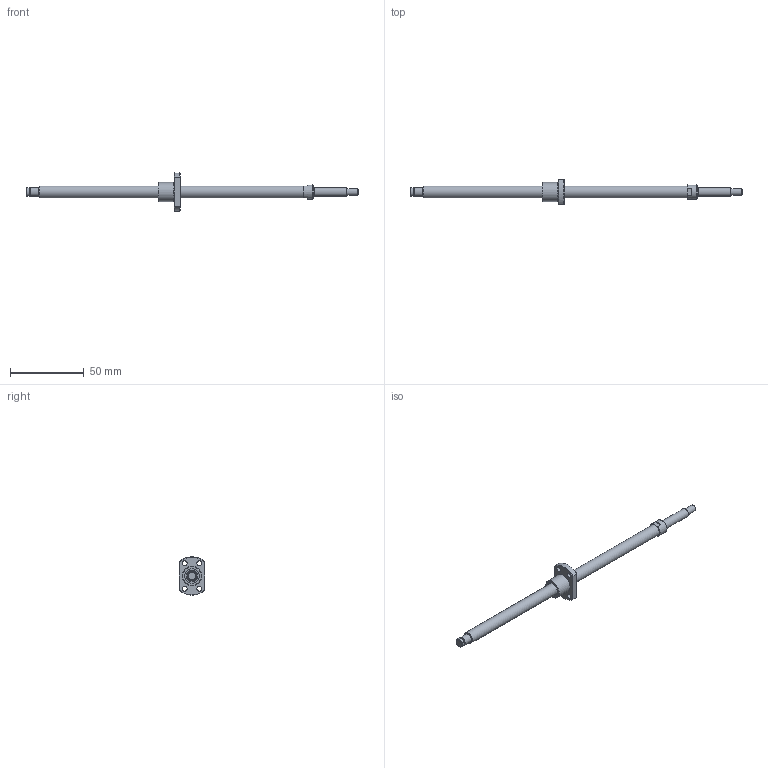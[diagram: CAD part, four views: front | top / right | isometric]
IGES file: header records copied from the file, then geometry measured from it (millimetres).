
Start section: Data from Parasolid IGES Translator 26.0.171, Copyright(c) 2006 Siemens PLM Software. All Rights Reserved.
Global section: file name: BNK0801-3G0+225LC5Y(95.5).igs; native system: By Siemens PLM Incorporated; preprocessor: XPlus GENERIC/IGES 26.0.171; author: Noname; organization: Noname; date: 20240709.082932; units: millimetre
Bounding box: 225 x 17 x 26 mm (x, y, z)
Surface area: 7519.6 mm2 (no closed solid volume)
Topology: 0 solids, 0 shells, 53 faces, 224 edges, 192 vertices
Faces by surface type: revolution 32, extrusion 21
